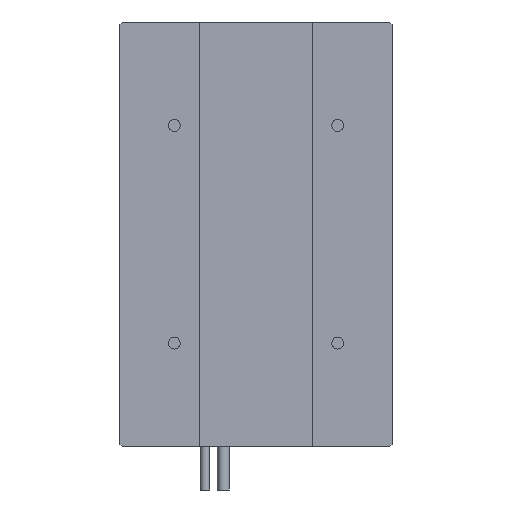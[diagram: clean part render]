
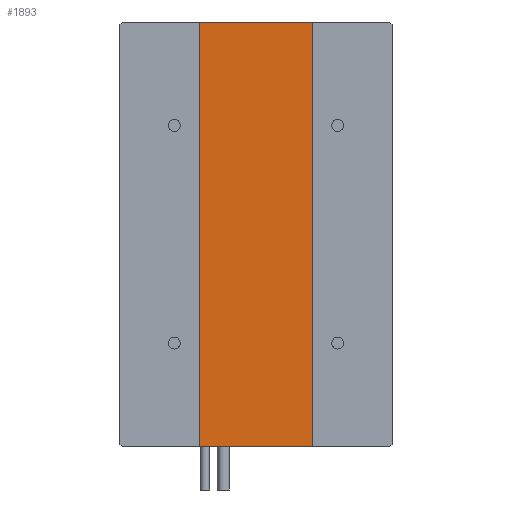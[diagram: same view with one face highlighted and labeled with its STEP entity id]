
A CAD part, front view. The second image highlights one B-rep face of the part: STEP entity #1893.
In plain terms, the highlighted planar face has unit normal (0, -1, 0).
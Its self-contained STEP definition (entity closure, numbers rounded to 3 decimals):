
#8 = DIRECTION ( 'NONE',  ( 0., 0., 1. ) ) ;
#121 = EDGE_CURVE ( 'NONE', #2789, #2097, #215, .T. ) ;
#200 = EDGE_CURVE ( 'NONE', #1544, #4504, #552, .T. ) ;
#215 = LINE ( 'NONE', #5214, #483 ) ;
#348 = EDGE_CURVE ( 'NONE', #1544, #2789, #3647, .T. ) ;
#384 = EDGE_CURVE ( 'NONE', #4504, #2097, #3545, .T. ) ;
#483 = VECTOR ( 'NONE', #5165, 1000. ) ;
#552 = LINE ( 'NONE', #2187, #2704 ) ;
#689 = CARTESIAN_POINT ( 'NONE',  ( 26., 0.5, 97.5 ) ) ;
#942 = CARTESIAN_POINT ( 'NONE',  ( -26., 0.5, 97.5 ) ) ;
#1068 = CARTESIAN_POINT ( 'NONE',  ( -26., 0.5, -149.502 ) ) ;
#1356 = DIRECTION ( 'NONE',  ( 0., 0., 1. ) ) ;
#1361 = DIRECTION ( 'NONE',  ( 0., 1., 0. ) ) ;
#1369 = CARTESIAN_POINT ( 'NONE',  ( -26., 0.5, -149.502 ) ) ;
#1398 = PLANE ( 'NONE',  #2398 ) ;
#1544 = VERTEX_POINT ( 'NONE', #2223 ) ;
#1893 = ADVANCED_FACE ( 'NONE', ( #5637 ), #1398, .F. ) ;
#2067 = DIRECTION ( 'NONE',  ( -1., 0., 0. ) ) ;
#2097 = VERTEX_POINT ( 'NONE', #942 ) ;
#2187 = CARTESIAN_POINT ( 'NONE',  ( -26., 0.5, -97.5 ) ) ;
#2223 = CARTESIAN_POINT ( 'NONE',  ( 26., 0.5, -97.5 ) ) ;
#2254 = DIRECTION ( 'NONE',  ( 0., 0., 1. ) ) ;
#2277 = EDGE_LOOP ( 'NONE', ( #2772, #4734, #5138, #4073 ) ) ;
#2398 = AXIS2_PLACEMENT_3D ( 'NONE', #1369, #1361, #1356 ) ;
#2704 = VECTOR ( 'NONE', #2067, 1000. ) ;
#2741 = CARTESIAN_POINT ( 'NONE',  ( 26., 0.5, -149.502 ) ) ;
#2772 = ORIENTED_EDGE ( 'NONE', *, *, #348, .T. ) ;
#2789 = VERTEX_POINT ( 'NONE', #689 ) ;
#3545 = LINE ( 'NONE', #1068, #5176 ) ;
#3647 = LINE ( 'NONE', #2741, #5258 ) ;
#4073 = ORIENTED_EDGE ( 'NONE', *, *, #200, .F. ) ;
#4504 = VERTEX_POINT ( 'NONE', #5565 ) ;
#4734 = ORIENTED_EDGE ( 'NONE', *, *, #121, .T. ) ;
#5138 = ORIENTED_EDGE ( 'NONE', *, *, #384, .F. ) ;
#5165 = DIRECTION ( 'NONE',  ( -1., 0., 0. ) ) ;
#5176 = VECTOR ( 'NONE', #8, 1000. ) ;
#5214 = CARTESIAN_POINT ( 'NONE',  ( -26., 0.5, 97.5 ) ) ;
#5258 = VECTOR ( 'NONE', #2254, 1000. ) ;
#5565 = CARTESIAN_POINT ( 'NONE',  ( -26., 0.5, -97.5 ) ) ;
#5637 = FACE_OUTER_BOUND ( 'NONE', #2277, .T. ) ;
